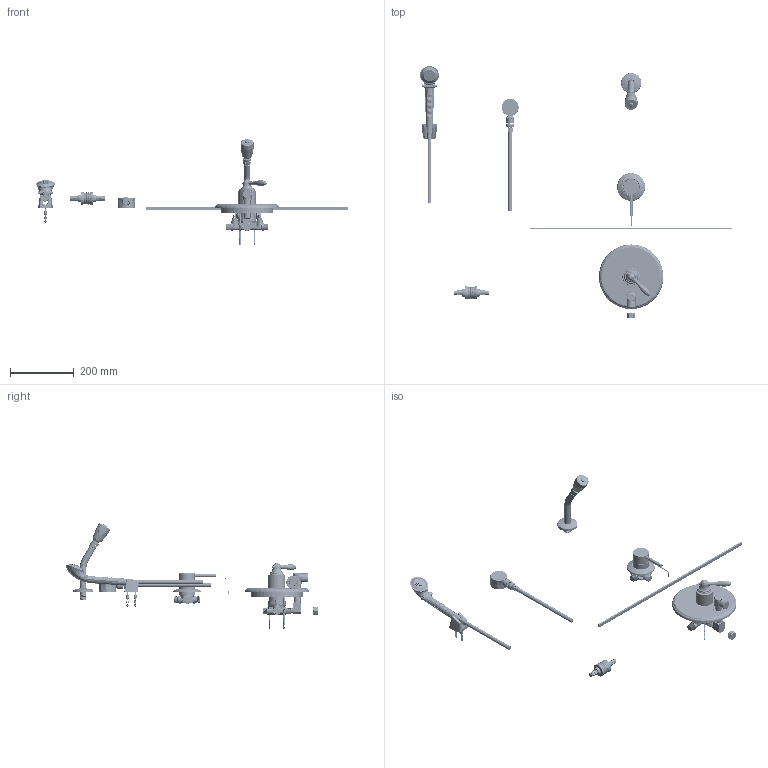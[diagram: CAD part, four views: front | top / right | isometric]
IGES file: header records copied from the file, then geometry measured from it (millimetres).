
Start section:  PTC IGES file: sh-tp4-22-020_rev050323.igs
Global section: file name: sh-tp4-22-020_rev050323.igs; native system: Creo Parametric by PTC Inc.; preprocessor: 2021184; author: rodjo; organization: Unknown; date: 20230503.083414; units: inch
Bounding box: 982.25 x 792.15 x 331.92 mm (x, y, z)
Surface area: 392241.6 mm2 (no closed solid volume)
Topology: 0 solids, 0 shells, 1950 faces, 19133 edges, 26593 vertices
Faces by surface type: revolution 1433, bspline 514, extrusion 3
